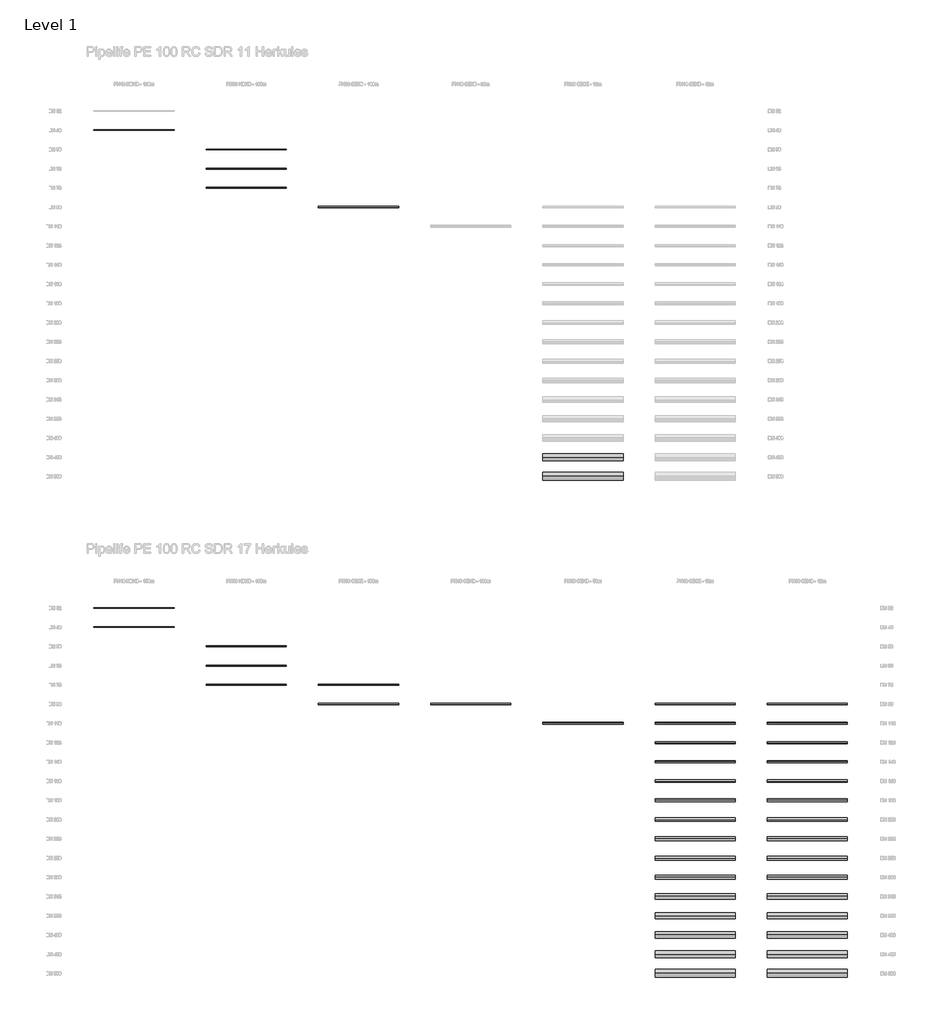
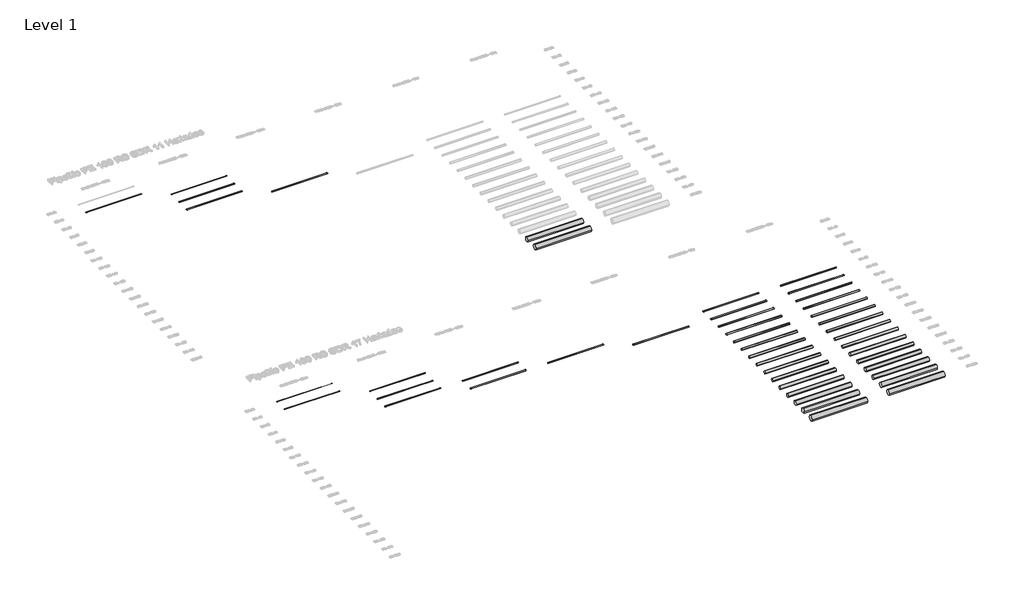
# One storey, part 1 of 17: 46 pipe segments.
"""IFC4 building model written with IfcOpenShell, lengths in millimetres."""

from ifc_helpers import new_model, si_unit, point, frame, frame_2d, origin, place, context, project, spatial, circle_curve, trimmed, segment, composite_curve, outline, extrude, element, save

model = new_model("IFC4")

# Units and contexts
model_context = context("Model", 3, world=origin())
ifc_project = project(units=[si_unit("LENGTHUNIT", "METRE", prefix="MILLI")], contexts=[model_context])

# Site, building, storey
site = spatial("IfcSite", under=ifc_project)
building = spatial("IfcBuilding", under=site)
storey = spatial("IfcBuildingStorey", under=building, Name="Level 1", Elevation=0.0)

# Pipe segments
placement = place(None, origin())
element("IfcPipeSegment", 1, ObjectType="Pipelife HERKULES, SDR 11 niebiesko/niebieska - 150m", at=placement, inside=storey, context=model_context, shape_type="SweptSolid", body=[
    extrude(outline(composite_curve([segment(trimmed(circle_curve(frame_2d((-613.949573, 0.0)), 20.0), [point((-633.949573, 0.0))], [point((-613.949573, 20.0))], False, "CARTESIAN"), True, "CONTINUOUS"), segment(trimmed(circle_curve(frame_2d((-613.949573, 0.0)), 20.0), [point((-613.949573, 20.0))], [point((-593.949573, 0.0))], False, "CARTESIAN"), True, "CONTINUOUS"), segment(trimmed(circle_curve(frame_2d((-613.949573, 0.0)), 20.0), [point((-593.949573, 0.0))], [point((-613.949573, -20.0))], False, "CARTESIAN"), True, "CONTINUOUS"), segment(trimmed(circle_curve(frame_2d((-613.949573, 0.0)), 20.0), [point((-613.949573, -20.0))], [point((-633.949573, 0.0))], False, "CARTESIAN"), True, "CONTINUOUS")], self_intersect=False)), frame((-16532.6671252, 0.0, 0.0), z_axis=(1.0, 0.0, 0.0), x_axis=(0.0, 1.0, 0.0)), (0.0, 0.0, 1.0), 5000.0),
])
element("IfcPipeSegment", 2, ObjectType="Pipelife HERKULES, SDR 11 niebiesko/niebieska - 100m", at=placement, inside=storey, context=model_context, shape_type="SweptSolid", body=[
    extrude(outline(composite_curve([segment(trimmed(circle_curve(frame_2d((-1813.949573, 0.0)), 25.0), [point((-1838.949573, 0.0))], [point((-1813.949573, 25.0))], False, "CARTESIAN"), True, "CONTINUOUS"), segment(trimmed(circle_curve(frame_2d((-1813.949573, 0.0)), 25.0), [point((-1813.949573, 25.0))], [point((-1788.949573, 0.0))], False, "CARTESIAN"), True, "CONTINUOUS"), segment(trimmed(circle_curve(frame_2d((-1813.949573, 0.0)), 25.0), [point((-1788.949573, 0.0))], [point((-1813.949573, -25.0))], False, "CARTESIAN"), True, "CONTINUOUS"), segment(trimmed(circle_curve(frame_2d((-1813.949573, 0.0)), 25.0), [point((-1813.949573, -25.0))], [point((-1838.949573, 0.0))], False, "CARTESIAN"), True, "CONTINUOUS")], self_intersect=False)), frame((-9532.6671252, 0.0, 0.0), z_axis=(1.0, 0.0, 0.0), x_axis=(0.0, 1.0, 0.0)), (0.0, 0.0, 1.0), 5000.0),
])
element("IfcPipeSegment", 3, ObjectType="Pipelife HERKULES, SDR 11 niebiesko/niebieska - 100m", at=placement, inside=storey, context=model_context, shape_type="SweptSolid", body=[
    extrude(outline(composite_curve([segment(trimmed(circle_curve(frame_2d((-3013.949573, 0.0)), 31.5), [point((-3045.449573, 0.0))], [point((-3013.949573, 31.5))], False, "CARTESIAN"), True, "CONTINUOUS"), segment(trimmed(circle_curve(frame_2d((-3013.949573, 0.0)), 31.5), [point((-3013.949573, 31.5))], [point((-2982.449573, 0.0))], False, "CARTESIAN"), True, "CONTINUOUS"), segment(trimmed(circle_curve(frame_2d((-3013.949573, 0.0)), 31.5), [point((-2982.449573, 0.0))], [point((-3013.949573, -31.5))], False, "CARTESIAN"), True, "CONTINUOUS"), segment(trimmed(circle_curve(frame_2d((-3013.949573, 0.0)), 31.5), [point((-3013.949573, -31.5))], [point((-3045.449573, 0.0))], False, "CARTESIAN"), True, "CONTINUOUS")], self_intersect=False)), frame((-9532.6671252, 0.0, 0.0), z_axis=(1.0, 0.0, 0.0), x_axis=(0.0, 1.0, 0.0)), (0.0, 0.0, 1.0), 5000.0),
])
element("IfcPipeSegment", 4, ObjectType="Pipelife HERKULES, SDR 11 niebiesko/niebieska - 100m", at=placement, inside=storey, context=model_context, shape_type="SweptSolid", body=[
    extrude(outline(composite_curve([segment(trimmed(circle_curve(frame_2d((-4213.949573, 0.0)), 37.5), [point((-4251.449573, 0.0))], [point((-4213.949573, 37.5))], False, "CARTESIAN"), True, "CONTINUOUS"), segment(trimmed(circle_curve(frame_2d((-4213.949573, 0.0)), 37.5), [point((-4213.949573, 37.5))], [point((-4176.449573, 0.0))], False, "CARTESIAN"), True, "CONTINUOUS"), segment(trimmed(circle_curve(frame_2d((-4213.949573, 0.0)), 37.5), [point((-4176.449573, 0.0))], [point((-4213.949573, -37.5))], False, "CARTESIAN"), True, "CONTINUOUS"), segment(trimmed(circle_curve(frame_2d((-4213.949573, 0.0)), 37.5), [point((-4213.949573, -37.5))], [point((-4251.449573, 0.0))], False, "CARTESIAN"), True, "CONTINUOUS")], self_intersect=False)), frame((-9532.6671252, 0.0, 0.0), z_axis=(1.0, 0.0, 0.0), x_axis=(0.0, 1.0, 0.0)), (0.0, 0.0, 1.0), 5000.0),
])
element("IfcPipeSegment", 5, ObjectType="Pipelife HERKULES, SDR 11 czarno/czarna - 12m", at=placement, inside=storey, context=model_context, shape_type="SweptSolid", body=[
    extrude(outline(composite_curve([segment(trimmed(circle_curve(frame_2d((-21013.949573, 0.0)), 225.0), [point((-21238.949573, 0.0))], [point((-21013.949573, 225.0))], False, "CARTESIAN"), True, "CONTINUOUS"), segment(trimmed(circle_curve(frame_2d((-21013.949573, 0.0)), 225.0), [point((-21013.949573, 225.0))], [point((-20788.949573, 0.0))], False, "CARTESIAN"), True, "CONTINUOUS"), segment(trimmed(circle_curve(frame_2d((-21013.949573, 0.0)), 225.0), [point((-20788.949573, 0.0))], [point((-21013.949573, -225.0))], False, "CARTESIAN"), True, "CONTINUOUS"), segment(trimmed(circle_curve(frame_2d((-21013.949573, 0.0)), 225.0), [point((-21013.949573, -225.0))], [point((-21238.949573, 0.0))], False, "CARTESIAN"), True, "CONTINUOUS")], self_intersect=False)), frame((11467.3328748, 0.0, 0.0), z_axis=(1.0, 0.0, 0.0), x_axis=(0.0, 1.0, 0.0)), (0.0, 0.0, 1.0), 5000.0),
])
element("IfcPipeSegment", 6, ObjectType="Pipelife HERKULES, SDR 11 czarno/czarna - 12m", at=placement, inside=storey, context=model_context, shape_type="SweptSolid", body=[
    extrude(outline(composite_curve([segment(trimmed(circle_curve(frame_2d((-22213.949573, 0.0)), 250.0), [point((-22463.949573, 0.0))], [point((-22213.949573, 250.0))], False, "CARTESIAN"), True, "CONTINUOUS"), segment(trimmed(circle_curve(frame_2d((-22213.949573, 0.0)), 250.0), [point((-22213.949573, 250.0))], [point((-21963.949573, 0.0))], False, "CARTESIAN"), True, "CONTINUOUS"), segment(trimmed(circle_curve(frame_2d((-22213.949573, 0.0)), 250.0), [point((-21963.949573, 0.0))], [point((-22213.949573, -250.0))], False, "CARTESIAN"), True, "CONTINUOUS"), segment(trimmed(circle_curve(frame_2d((-22213.949573, 0.0)), 250.0), [point((-22213.949573, -250.0))], [point((-22463.949573, 0.0))], False, "CARTESIAN"), True, "CONTINUOUS")], self_intersect=False)), frame((11467.3328748, 0.0, 0.0), z_axis=(1.0, 0.0, 0.0), x_axis=(0.0, 1.0, 0.0)), (0.0, 0.0, 1.0), 5000.0),
])
element("IfcPipeSegment", 7, ObjectType="Pipelife HERKULES, SDR 11 czarno/niebieska - 100m", at=placement, inside=storey, context=model_context, shape_type="SweptSolid", body=[
    extrude(outline(composite_curve([segment(trimmed(circle_curve(frame_2d((-5413.949573, 0.0)), 45.0), [point((-5458.949573, 0.0))], [point((-5413.949573, 45.0))], False, "CARTESIAN"), True, "CONTINUOUS"), segment(trimmed(circle_curve(frame_2d((-5413.949573, 0.0)), 45.0), [point((-5413.949573, 45.0))], [point((-5368.949573, 0.0))], False, "CARTESIAN"), True, "CONTINUOUS"), segment(trimmed(circle_curve(frame_2d((-5413.949573, 0.0)), 45.0), [point((-5368.949573, 0.0))], [point((-5413.949573, -45.0))], False, "CARTESIAN"), True, "CONTINUOUS"), segment(trimmed(circle_curve(frame_2d((-5413.949573, 0.0)), 45.0), [point((-5413.949573, -45.0))], [point((-5458.949573, 0.0))], False, "CARTESIAN"), True, "CONTINUOUS")], self_intersect=False)), frame((-2532.6671252, 0.0, 0.0), z_axis=(1.0, 0.0, 0.0), x_axis=(0.0, 1.0, 0.0)), (0.0, 0.0, 1.0), 5000.0),
])
element("IfcPipeSegment", 8, ObjectType="Pipelife HERKULES, SDR 17 niebiesko/niebieska - 150m", at=placement, inside=storey, context=model_context, shape_type="SweptSolid", body=[
    extrude(outline(composite_curve([segment(trimmed(circle_curve(frame_2d((-30413.949573, 0.0)), 16.0), [point((-30429.949573, 0.0))], [point((-30413.949573, 16.0))], False, "CARTESIAN"), True, "CONTINUOUS"), segment(trimmed(circle_curve(frame_2d((-30413.949573, 0.0)), 16.0), [point((-30413.949573, 16.0))], [point((-30397.949573, 0.0))], False, "CARTESIAN"), True, "CONTINUOUS"), segment(trimmed(circle_curve(frame_2d((-30413.949573, 0.0)), 16.0), [point((-30397.949573, 0.0))], [point((-30413.949573, -16.0))], False, "CARTESIAN"), True, "CONTINUOUS"), segment(trimmed(circle_curve(frame_2d((-30413.949573, 0.0)), 16.0), [point((-30413.949573, -16.0))], [point((-30429.949573, 0.0))], False, "CARTESIAN"), True, "CONTINUOUS")], self_intersect=False)), frame((-16532.6671252, 0.0, 0.0), z_axis=(1.0, 0.0, 0.0), x_axis=(0.0, 1.0, 0.0)), (0.0, 0.0, 1.0), 5000.0),
])
element("IfcPipeSegment", 9, ObjectType="Pipelife HERKULES, SDR 17 niebiesko/niebieska - 150m", at=placement, inside=storey, context=model_context, shape_type="SweptSolid", body=[
    extrude(outline(composite_curve([segment(trimmed(circle_curve(frame_2d((-31613.949573, 0.0)), 20.0), [point((-31633.949573, 0.0))], [point((-31613.949573, 20.0))], False, "CARTESIAN"), True, "CONTINUOUS"), segment(trimmed(circle_curve(frame_2d((-31613.949573, 0.0)), 20.0), [point((-31613.949573, 20.0))], [point((-31593.949573, 0.0))], False, "CARTESIAN"), True, "CONTINUOUS"), segment(trimmed(circle_curve(frame_2d((-31613.949573, 0.0)), 20.0), [point((-31593.949573, 0.0))], [point((-31613.949573, -20.0))], False, "CARTESIAN"), True, "CONTINUOUS"), segment(trimmed(circle_curve(frame_2d((-31613.949573, 0.0)), 20.0), [point((-31613.949573, -20.0))], [point((-31633.949573, 0.0))], False, "CARTESIAN"), True, "CONTINUOUS")], self_intersect=False)), frame((-16532.6671252, 0.0, 0.0), z_axis=(1.0, 0.0, 0.0), x_axis=(0.0, 1.0, 0.0)), (0.0, 0.0, 1.0), 5000.0),
])
element("IfcPipeSegment", 10, ObjectType="Pipelife HERKULES, SDR 17 niebiesko/niebieska - 100m", at=placement, inside=storey, context=model_context, shape_type="SweptSolid", body=[
    extrude(outline(composite_curve([segment(trimmed(circle_curve(frame_2d((-32813.949573, 0.0)), 25.0), [point((-32838.949573, 0.0))], [point((-32813.949573, 25.0))], False, "CARTESIAN"), True, "CONTINUOUS"), segment(trimmed(circle_curve(frame_2d((-32813.949573, 0.0)), 25.0), [point((-32813.949573, 25.0))], [point((-32788.949573, 0.0))], False, "CARTESIAN"), True, "CONTINUOUS"), segment(trimmed(circle_curve(frame_2d((-32813.949573, 0.0)), 25.0), [point((-32788.949573, 0.0))], [point((-32813.949573, -25.0))], False, "CARTESIAN"), True, "CONTINUOUS"), segment(trimmed(circle_curve(frame_2d((-32813.949573, 0.0)), 25.0), [point((-32813.949573, -25.0))], [point((-32838.949573, 0.0))], False, "CARTESIAN"), True, "CONTINUOUS")], self_intersect=False)), frame((-9532.6671252, 0.0, 0.0), z_axis=(1.0, 0.0, 0.0), x_axis=(0.0, 1.0, 0.0)), (0.0, 0.0, 1.0), 5000.0),
])
element("IfcPipeSegment", 11, ObjectType="Pipelife HERKULES, SDR 17 niebiesko/niebieska - 100m", at=placement, inside=storey, context=model_context, shape_type="SweptSolid", body=[
    extrude(outline(composite_curve([segment(trimmed(circle_curve(frame_2d((-34013.949573, 0.0)), 31.5), [point((-34045.449573, 0.0))], [point((-34013.949573, 31.5))], False, "CARTESIAN"), True, "CONTINUOUS"), segment(trimmed(circle_curve(frame_2d((-34013.949573, 0.0)), 31.5), [point((-34013.949573, 31.5))], [point((-33982.449573, 0.0))], False, "CARTESIAN"), True, "CONTINUOUS"), segment(trimmed(circle_curve(frame_2d((-34013.949573, 0.0)), 31.5), [point((-33982.449573, 0.0))], [point((-34013.949573, -31.5))], False, "CARTESIAN"), True, "CONTINUOUS"), segment(trimmed(circle_curve(frame_2d((-34013.949573, 0.0)), 31.5), [point((-34013.949573, -31.5))], [point((-34045.449573, 0.0))], False, "CARTESIAN"), True, "CONTINUOUS")], self_intersect=False)), frame((-9532.6671252, 0.0, 0.0), z_axis=(1.0, 0.0, 0.0), x_axis=(0.0, 1.0, 0.0)), (0.0, 0.0, 1.0), 5000.0),
])
element("IfcPipeSegment", 12, ObjectType="Pipelife HERKULES, SDR 17 niebiesko/niebieska - 100m", at=placement, inside=storey, context=model_context, shape_type="SweptSolid", body=[
    extrude(outline(composite_curve([segment(trimmed(circle_curve(frame_2d((-35213.949573, 0.0)), 37.5), [point((-35251.449573, 0.0))], [point((-35213.949573, 37.5))], False, "CARTESIAN"), True, "CONTINUOUS"), segment(trimmed(circle_curve(frame_2d((-35213.949573, 0.0)), 37.5), [point((-35213.949573, 37.5))], [point((-35176.449573, 0.0))], False, "CARTESIAN"), True, "CONTINUOUS"), segment(trimmed(circle_curve(frame_2d((-35213.949573, 0.0)), 37.5), [point((-35176.449573, 0.0))], [point((-35213.949573, -37.5))], False, "CARTESIAN"), True, "CONTINUOUS"), segment(trimmed(circle_curve(frame_2d((-35213.949573, 0.0)), 37.5), [point((-35213.949573, -37.5))], [point((-35251.449573, 0.0))], False, "CARTESIAN"), True, "CONTINUOUS")], self_intersect=False)), frame((-9532.6671252, 0.0, 0.0), z_axis=(1.0, 0.0, 0.0), x_axis=(0.0, 1.0, 0.0)), (0.0, 0.0, 1.0), 5000.0),
])
element("IfcPipeSegment", 13, ObjectType="Pipelife HERKULES, SDR 17 czarno/czarna - 100m", at=placement, inside=storey, context=model_context, shape_type="SweptSolid", body=[
    extrude(outline(composite_curve([segment(trimmed(circle_curve(frame_2d((-35213.949573, 0.0)), 37.5), [point((-35251.449573, 0.0))], [point((-35213.949573, 37.5))], False, "CARTESIAN"), True, "CONTINUOUS"), segment(trimmed(circle_curve(frame_2d((-35213.949573, 0.0)), 37.5), [point((-35213.949573, 37.5))], [point((-35176.449573, 0.0))], False, "CARTESIAN"), True, "CONTINUOUS"), segment(trimmed(circle_curve(frame_2d((-35213.949573, 0.0)), 37.5), [point((-35176.449573, 0.0))], [point((-35213.949573, -37.5))], False, "CARTESIAN"), True, "CONTINUOUS"), segment(trimmed(circle_curve(frame_2d((-35213.949573, 0.0)), 37.5), [point((-35213.949573, -37.5))], [point((-35251.449573, 0.0))], False, "CARTESIAN"), True, "CONTINUOUS")], self_intersect=False)), frame((-2532.6671252, 0.0, 0.0), z_axis=(1.0, 0.0, 0.0), x_axis=(0.0, 1.0, 0.0)), (0.0, 0.0, 1.0), 5000.0),
])
element("IfcPipeSegment", 14, ObjectType="Pipelife HERKULES, SDR 17 czarno/czarna - 100m", at=placement, inside=storey, context=model_context, shape_type="SweptSolid", body=[
    extrude(outline(composite_curve([segment(trimmed(circle_curve(frame_2d((-36413.949573, 0.0)), 45.0), [point((-36458.949573, 0.0))], [point((-36413.949573, 45.0))], False, "CARTESIAN"), True, "CONTINUOUS"), segment(trimmed(circle_curve(frame_2d((-36413.949573, 0.0)), 45.0), [point((-36413.949573, 45.0))], [point((-36368.949573, 0.0))], False, "CARTESIAN"), True, "CONTINUOUS"), segment(trimmed(circle_curve(frame_2d((-36413.949573, 0.0)), 45.0), [point((-36368.949573, 0.0))], [point((-36413.949573, -45.0))], False, "CARTESIAN"), True, "CONTINUOUS"), segment(trimmed(circle_curve(frame_2d((-36413.949573, 0.0)), 45.0), [point((-36413.949573, -45.0))], [point((-36458.949573, 0.0))], False, "CARTESIAN"), True, "CONTINUOUS")], self_intersect=False)), frame((-2532.6671252, 0.0, 0.0), z_axis=(1.0, 0.0, 0.0), x_axis=(0.0, 1.0, 0.0)), (0.0, 0.0, 1.0), 5000.0),
])
element("IfcPipeSegment", 15, ObjectType="Pipelife HERKULES, SDR 17 czarno/czarna - 12m", at=placement, inside=storey, context=model_context, shape_type="SweptSolid", body=[
    extrude(outline(composite_curve([segment(trimmed(circle_curve(frame_2d((-36413.949573, 0.0)), 45.0), [point((-36458.949573, 0.0))], [point((-36413.949573, 45.0))], False, "CARTESIAN"), True, "CONTINUOUS"), segment(trimmed(circle_curve(frame_2d((-36413.949573, 0.0)), 45.0), [point((-36413.949573, 45.0))], [point((-36368.949573, 0.0))], False, "CARTESIAN"), True, "CONTINUOUS"), segment(trimmed(circle_curve(frame_2d((-36413.949573, 0.0)), 45.0), [point((-36368.949573, 0.0))], [point((-36413.949573, -45.0))], False, "CARTESIAN"), True, "CONTINUOUS"), segment(trimmed(circle_curve(frame_2d((-36413.949573, 0.0)), 45.0), [point((-36413.949573, -45.0))], [point((-36458.949573, 0.0))], False, "CARTESIAN"), True, "CONTINUOUS")], self_intersect=False)), frame((18467.3328748, 0.0, 0.0), z_axis=(1.0, 0.0, 0.0), x_axis=(0.0, 1.0, 0.0)), (0.0, 0.0, 1.0), 5000.0),
])
element("IfcPipeSegment", 16, ObjectType="Pipelife HERKULES, SDR 17 czarno/czarna - 12m", at=placement, inside=storey, context=model_context, shape_type="SweptSolid", body=[
    extrude(outline(composite_curve([segment(trimmed(circle_curve(frame_2d((-37613.949573, 0.0)), 55.0), [point((-37668.949573, 0.0))], [point((-37613.949573, 55.0))], False, "CARTESIAN"), True, "CONTINUOUS"), segment(trimmed(circle_curve(frame_2d((-37613.949573, 0.0)), 55.0), [point((-37613.949573, 55.0))], [point((-37558.949573, 0.0))], False, "CARTESIAN"), True, "CONTINUOUS"), segment(trimmed(circle_curve(frame_2d((-37613.949573, 0.0)), 55.0), [point((-37558.949573, 0.0))], [point((-37613.949573, -55.0))], False, "CARTESIAN"), True, "CONTINUOUS"), segment(trimmed(circle_curve(frame_2d((-37613.949573, 0.0)), 55.0), [point((-37613.949573, -55.0))], [point((-37668.949573, 0.0))], False, "CARTESIAN"), True, "CONTINUOUS")], self_intersect=False)), frame((18467.3328748, 0.0, 0.0), z_axis=(1.0, 0.0, 0.0), x_axis=(0.0, 1.0, 0.0)), (0.0, 0.0, 1.0), 5000.0),
])
element("IfcPipeSegment", 17, ObjectType="Pipelife HERKULES, SDR 17 czarno/czarna - 12m", at=placement, inside=storey, context=model_context, shape_type="SweptSolid", body=[
    extrude(outline(composite_curve([segment(trimmed(circle_curve(frame_2d((-38813.949573, 0.0)), 62.5), [point((-38876.449573, 0.0))], [point((-38813.949573, 62.5))], False, "CARTESIAN"), True, "CONTINUOUS"), segment(trimmed(circle_curve(frame_2d((-38813.949573, 0.0)), 62.5), [point((-38813.949573, 62.5))], [point((-38751.449573, 0.0))], False, "CARTESIAN"), True, "CONTINUOUS"), segment(trimmed(circle_curve(frame_2d((-38813.949573, 0.0)), 62.5), [point((-38751.449573, 0.0))], [point((-38813.949573, -62.5))], False, "CARTESIAN"), True, "CONTINUOUS"), segment(trimmed(circle_curve(frame_2d((-38813.949573, 0.0)), 62.5), [point((-38813.949573, -62.5))], [point((-38876.449573, 0.0))], False, "CARTESIAN"), True, "CONTINUOUS")], self_intersect=False)), frame((18467.3328748, 0.0, 0.0), z_axis=(1.0, 0.0, 0.0), x_axis=(0.0, 1.0, 0.0)), (0.0, 0.0, 1.0), 5000.0),
])
element("IfcPipeSegment", 18, ObjectType="Pipelife HERKULES, SDR 17 czarno/czarna - 12m", at=placement, inside=storey, context=model_context, shape_type="SweptSolid", body=[
    extrude(outline(composite_curve([segment(trimmed(circle_curve(frame_2d((-40013.949573, 0.0)), 70.0), [point((-40083.949573, 0.0))], [point((-40013.949573, 70.0))], False, "CARTESIAN"), True, "CONTINUOUS"), segment(trimmed(circle_curve(frame_2d((-40013.949573, 0.0)), 70.0), [point((-40013.949573, 70.0))], [point((-39943.949573, 0.0))], False, "CARTESIAN"), True, "CONTINUOUS"), segment(trimmed(circle_curve(frame_2d((-40013.949573, 0.0)), 70.0), [point((-39943.949573, 0.0))], [point((-40013.949573, -70.0))], False, "CARTESIAN"), True, "CONTINUOUS"), segment(trimmed(circle_curve(frame_2d((-40013.949573, 0.0)), 70.0), [point((-40013.949573, -70.0))], [point((-40083.949573, 0.0))], False, "CARTESIAN"), True, "CONTINUOUS")], self_intersect=False)), frame((18467.3328748, 0.0, 0.0), z_axis=(1.0, 0.0, 0.0), x_axis=(0.0, 1.0, 0.0)), (0.0, 0.0, 1.0), 5000.0),
])
element("IfcPipeSegment", 19, ObjectType="Pipelife HERKULES, SDR 17 czarno/czarna - 12m", at=placement, inside=storey, context=model_context, shape_type="SweptSolid", body=[
    extrude(outline(composite_curve([segment(trimmed(circle_curve(frame_2d((-41213.949573, 0.0)), 80.0), [point((-41293.949573, 0.0))], [point((-41213.949573, 80.0))], False, "CARTESIAN"), True, "CONTINUOUS"), segment(trimmed(circle_curve(frame_2d((-41213.949573, 0.0)), 80.0), [point((-41213.949573, 80.0))], [point((-41133.949573, 0.0))], False, "CARTESIAN"), True, "CONTINUOUS"), segment(trimmed(circle_curve(frame_2d((-41213.949573, 0.0)), 80.0), [point((-41133.949573, 0.0))], [point((-41213.949573, -80.0))], False, "CARTESIAN"), True, "CONTINUOUS"), segment(trimmed(circle_curve(frame_2d((-41213.949573, 0.0)), 80.0), [point((-41213.949573, -80.0))], [point((-41293.949573, 0.0))], False, "CARTESIAN"), True, "CONTINUOUS")], self_intersect=False)), frame((18467.3328748, 0.0, 0.0), z_axis=(1.0, 0.0, 0.0), x_axis=(0.0, 1.0, 0.0)), (0.0, 0.0, 1.0), 5000.0),
])
element("IfcPipeSegment", 20, ObjectType="Pipelife HERKULES, SDR 17 czarno/czarna - 12m", at=placement, inside=storey, context=model_context, shape_type="SweptSolid", body=[
    extrude(outline(composite_curve([segment(trimmed(circle_curve(frame_2d((-42413.949573, 0.0)), 90.0), [point((-42503.949573, 0.0))], [point((-42413.949573, 90.0))], False, "CARTESIAN"), True, "CONTINUOUS"), segment(trimmed(circle_curve(frame_2d((-42413.949573, 0.0)), 90.0), [point((-42413.949573, 90.0))], [point((-42323.949573, 0.0))], False, "CARTESIAN"), True, "CONTINUOUS"), segment(trimmed(circle_curve(frame_2d((-42413.949573, 0.0)), 90.0), [point((-42323.949573, 0.0))], [point((-42413.949573, -90.0))], False, "CARTESIAN"), True, "CONTINUOUS"), segment(trimmed(circle_curve(frame_2d((-42413.949573, 0.0)), 90.0), [point((-42413.949573, -90.0))], [point((-42503.949573, 0.0))], False, "CARTESIAN"), True, "CONTINUOUS")], self_intersect=False)), frame((18467.3328748, 0.0, 0.0), z_axis=(1.0, 0.0, 0.0), x_axis=(0.0, 1.0, 0.0)), (0.0, 0.0, 1.0), 5000.0),
])
element("IfcPipeSegment", 21, ObjectType="Pipelife HERKULES, SDR 17 czarno/czarna - 12m", at=placement, inside=storey, context=model_context, shape_type="SweptSolid", body=[
    extrude(outline(composite_curve([segment(trimmed(circle_curve(frame_2d((-43613.949573, 0.0)), 100.0), [point((-43713.949573, 0.0))], [point((-43613.949573, 100.0))], False, "CARTESIAN"), True, "CONTINUOUS"), segment(trimmed(circle_curve(frame_2d((-43613.949573, 0.0)), 100.0), [point((-43613.949573, 100.0))], [point((-43513.949573, 0.0))], False, "CARTESIAN"), True, "CONTINUOUS"), segment(trimmed(circle_curve(frame_2d((-43613.949573, 0.0)), 100.0), [point((-43513.949573, 0.0))], [point((-43613.949573, -100.0))], False, "CARTESIAN"), True, "CONTINUOUS"), segment(trimmed(circle_curve(frame_2d((-43613.949573, 0.0)), 100.0), [point((-43613.949573, -100.0))], [point((-43713.949573, 0.0))], False, "CARTESIAN"), True, "CONTINUOUS")], self_intersect=False)), frame((18467.3328748, 0.0, 0.0), z_axis=(1.0, 0.0, 0.0), x_axis=(0.0, 1.0, 0.0)), (0.0, 0.0, 1.0), 5000.0),
])
element("IfcPipeSegment", 22, ObjectType="Pipelife HERKULES, SDR 17 czarno/czarna - 12m", at=placement, inside=storey, context=model_context, shape_type="SweptSolid", body=[
    extrude(outline(composite_curve([segment(trimmed(circle_curve(frame_2d((-44813.949573, 0.0)), 112.5), [point((-44926.449573, 0.0))], [point((-44813.949573, 112.5))], False, "CARTESIAN"), True, "CONTINUOUS"), segment(trimmed(circle_curve(frame_2d((-44813.949573, 0.0)), 112.5), [point((-44813.949573, 112.5))], [point((-44701.449573, 0.0))], False, "CARTESIAN"), True, "CONTINUOUS"), segment(trimmed(circle_curve(frame_2d((-44813.949573, 0.0)), 112.5), [point((-44701.449573, 0.0))], [point((-44813.949573, -112.5))], False, "CARTESIAN"), True, "CONTINUOUS"), segment(trimmed(circle_curve(frame_2d((-44813.949573, 0.0)), 112.5), [point((-44813.949573, -112.5))], [point((-44926.449573, 0.0))], False, "CARTESIAN"), True, "CONTINUOUS")], self_intersect=False)), frame((18467.3328748, 0.0, 0.0), z_axis=(1.0, 0.0, 0.0), x_axis=(0.0, 1.0, 0.0)), (0.0, 0.0, 1.0), 5000.0),
])
element("IfcPipeSegment", 23, ObjectType="Pipelife HERKULES, SDR 17 czarno/czarna - 12m", at=placement, inside=storey, context=model_context, shape_type="SweptSolid", body=[
    extrude(outline(composite_curve([segment(trimmed(circle_curve(frame_2d((-46013.949573, 0.0)), 125.0), [point((-46138.949573, 0.0))], [point((-46013.949573, 125.0))], False, "CARTESIAN"), True, "CONTINUOUS"), segment(trimmed(circle_curve(frame_2d((-46013.949573, 0.0)), 125.0), [point((-46013.949573, 125.0))], [point((-45888.949573, 0.0))], False, "CARTESIAN"), True, "CONTINUOUS"), segment(trimmed(circle_curve(frame_2d((-46013.949573, 0.0)), 125.0), [point((-45888.949573, 0.0))], [point((-46013.949573, -125.0))], False, "CARTESIAN"), True, "CONTINUOUS"), segment(trimmed(circle_curve(frame_2d((-46013.949573, 0.0)), 125.0), [point((-46013.949573, -125.0))], [point((-46138.949573, 0.0))], False, "CARTESIAN"), True, "CONTINUOUS")], self_intersect=False)), frame((18467.3328748, 0.0, 0.0), z_axis=(1.0, 0.0, 0.0), x_axis=(0.0, 1.0, 0.0)), (0.0, 0.0, 1.0), 5000.0),
])
element("IfcPipeSegment", 24, ObjectType="Pipelife HERKULES, SDR 17 czarno/czarna - 12m", at=placement, inside=storey, context=model_context, shape_type="SweptSolid", body=[
    extrude(outline(composite_curve([segment(trimmed(circle_curve(frame_2d((-47213.949573, 0.0)), 140.0), [point((-47353.949573, 0.0))], [point((-47213.949573, 140.0))], False, "CARTESIAN"), True, "CONTINUOUS"), segment(trimmed(circle_curve(frame_2d((-47213.949573, 0.0)), 140.0), [point((-47213.949573, 140.0))], [point((-47073.949573, 0.0))], False, "CARTESIAN"), True, "CONTINUOUS"), segment(trimmed(circle_curve(frame_2d((-47213.949573, 0.0)), 140.0), [point((-47073.949573, 0.0))], [point((-47213.949573, -140.0))], False, "CARTESIAN"), True, "CONTINUOUS"), segment(trimmed(circle_curve(frame_2d((-47213.949573, 0.0)), 140.0), [point((-47213.949573, -140.0))], [point((-47353.949573, 0.0))], False, "CARTESIAN"), True, "CONTINUOUS")], self_intersect=False)), frame((18467.3328748, 0.0, 0.0), z_axis=(1.0, 0.0, 0.0), x_axis=(0.0, 1.0, 0.0)), (0.0, 0.0, 1.0), 5000.0),
])
element("IfcPipeSegment", 25, ObjectType="Pipelife HERKULES, SDR 17 czarno/czarna - 12m", at=placement, inside=storey, context=model_context, shape_type="SweptSolid", body=[
    extrude(outline(composite_curve([segment(trimmed(circle_curve(frame_2d((-48413.949573, 0.0)), 157.5), [point((-48571.449573, 0.0))], [point((-48413.949573, 157.5))], False, "CARTESIAN"), True, "CONTINUOUS"), segment(trimmed(circle_curve(frame_2d((-48413.949573, 0.0)), 157.5), [point((-48413.949573, 157.5))], [point((-48256.449573, 0.0))], False, "CARTESIAN"), True, "CONTINUOUS"), segment(trimmed(circle_curve(frame_2d((-48413.949573, 0.0)), 157.5), [point((-48256.449573, 0.0))], [point((-48413.949573, -157.5))], False, "CARTESIAN"), True, "CONTINUOUS"), segment(trimmed(circle_curve(frame_2d((-48413.949573, 0.0)), 157.5), [point((-48413.949573, -157.5))], [point((-48571.449573, 0.0))], False, "CARTESIAN"), True, "CONTINUOUS")], self_intersect=False)), frame((18467.3328748, 0.0, 0.0), z_axis=(1.0, 0.0, 0.0), x_axis=(0.0, 1.0, 0.0)), (0.0, 0.0, 1.0), 5000.0),
])
element("IfcPipeSegment", 26, ObjectType="Pipelife HERKULES, SDR 17 czarno/czarna - 12m", at=placement, inside=storey, context=model_context, shape_type="SweptSolid", body=[
    extrude(outline(composite_curve([segment(trimmed(circle_curve(frame_2d((-49613.949573, 0.0)), 177.5), [point((-49791.449573, 0.0))], [point((-49613.949573, 177.5))], False, "CARTESIAN"), True, "CONTINUOUS"), segment(trimmed(circle_curve(frame_2d((-49613.949573, 0.0)), 177.5), [point((-49613.949573, 177.5))], [point((-49436.449573, 0.0))], False, "CARTESIAN"), True, "CONTINUOUS"), segment(trimmed(circle_curve(frame_2d((-49613.949573, 0.0)), 177.5), [point((-49436.449573, 0.0))], [point((-49613.949573, -177.5))], False, "CARTESIAN"), True, "CONTINUOUS"), segment(trimmed(circle_curve(frame_2d((-49613.949573, 0.0)), 177.5), [point((-49613.949573, -177.5))], [point((-49791.449573, 0.0))], False, "CARTESIAN"), True, "CONTINUOUS")], self_intersect=False)), frame((18467.3328748, 0.0, 0.0), z_axis=(1.0, 0.0, 0.0), x_axis=(0.0, 1.0, 0.0)), (0.0, 0.0, 1.0), 5000.0),
])
element("IfcPipeSegment", 27, ObjectType="Pipelife HERKULES, SDR 17 czarno/czarna - 12m", at=placement, inside=storey, context=model_context, shape_type="SweptSolid", body=[
    extrude(outline(composite_curve([segment(trimmed(circle_curve(frame_2d((-50813.949573, 0.0)), 200.0), [point((-51013.949573, 0.0))], [point((-50813.949573, 200.0))], False, "CARTESIAN"), True, "CONTINUOUS"), segment(trimmed(circle_curve(frame_2d((-50813.949573, 0.0)), 200.0), [point((-50813.949573, 200.0))], [point((-50613.949573, 0.0))], False, "CARTESIAN"), True, "CONTINUOUS"), segment(trimmed(circle_curve(frame_2d((-50813.949573, 0.0)), 200.0), [point((-50613.949573, 0.0))], [point((-50813.949573, -200.0))], False, "CARTESIAN"), True, "CONTINUOUS"), segment(trimmed(circle_curve(frame_2d((-50813.949573, 0.0)), 200.0), [point((-50813.949573, -200.0))], [point((-51013.949573, 0.0))], False, "CARTESIAN"), True, "CONTINUOUS")], self_intersect=False)), frame((18467.3328748, 0.0, 0.0), z_axis=(1.0, 0.0, 0.0), x_axis=(0.0, 1.0, 0.0)), (0.0, 0.0, 1.0), 5000.0),
])
element("IfcPipeSegment", 28, ObjectType="Pipelife HERKULES, SDR 17 czarno/czarna - 12m", at=placement, inside=storey, context=model_context, shape_type="SweptSolid", body=[
    extrude(outline(composite_curve([segment(trimmed(circle_curve(frame_2d((-52013.949573, 0.0)), 225.0), [point((-52238.949573, 0.0))], [point((-52013.949573, 225.0))], False, "CARTESIAN"), True, "CONTINUOUS"), segment(trimmed(circle_curve(frame_2d((-52013.949573, 0.0)), 225.0), [point((-52013.949573, 225.0))], [point((-51788.949573, 0.0))], False, "CARTESIAN"), True, "CONTINUOUS"), segment(trimmed(circle_curve(frame_2d((-52013.949573, 0.0)), 225.0), [point((-51788.949573, 0.0))], [point((-52013.949573, -225.0))], False, "CARTESIAN"), True, "CONTINUOUS"), segment(trimmed(circle_curve(frame_2d((-52013.949573, 0.0)), 225.0), [point((-52013.949573, -225.0))], [point((-52238.949573, 0.0))], False, "CARTESIAN"), True, "CONTINUOUS")], self_intersect=False)), frame((18467.3328748, 0.0, 0.0), z_axis=(1.0, 0.0, 0.0), x_axis=(0.0, 1.0, 0.0)), (0.0, 0.0, 1.0), 5000.0),
])
element("IfcPipeSegment", 29, ObjectType="Pipelife HERKULES, SDR 17 czarno/czarna - 12m", at=placement, inside=storey, context=model_context, shape_type="SweptSolid", body=[
    extrude(outline(composite_curve([segment(trimmed(circle_curve(frame_2d((-53213.949573, 0.0)), 250.0), [point((-53463.949573, 0.0))], [point((-53213.949573, 250.0))], False, "CARTESIAN"), True, "CONTINUOUS"), segment(trimmed(circle_curve(frame_2d((-53213.949573, 0.0)), 250.0), [point((-53213.949573, 250.0))], [point((-52963.949573, 0.0))], False, "CARTESIAN"), True, "CONTINUOUS"), segment(trimmed(circle_curve(frame_2d((-53213.949573, 0.0)), 250.0), [point((-52963.949573, 0.0))], [point((-53213.949573, -250.0))], False, "CARTESIAN"), True, "CONTINUOUS"), segment(trimmed(circle_curve(frame_2d((-53213.949573, 0.0)), 250.0), [point((-53213.949573, -250.0))], [point((-53463.949573, 0.0))], False, "CARTESIAN"), True, "CONTINUOUS")], self_intersect=False)), frame((18467.3328748, 0.0, 0.0), z_axis=(1.0, 0.0, 0.0), x_axis=(0.0, 1.0, 0.0)), (0.0, 0.0, 1.0), 5000.0),
])
element("IfcPipeSegment", 30, ObjectType="Pipelife HERKULES, SDR 17 czarno/niebieska - 100m", at=placement, inside=storey, context=model_context, shape_type="SweptSolid", body=[
    extrude(outline(composite_curve([segment(trimmed(circle_curve(frame_2d((-36413.949573, 0.0)), 45.0), [point((-36458.949573, 0.0))], [point((-36413.949573, 45.0))], False, "CARTESIAN"), True, "CONTINUOUS"), segment(trimmed(circle_curve(frame_2d((-36413.949573, 0.0)), 45.0), [point((-36413.949573, 45.0))], [point((-36368.949573, 0.0))], False, "CARTESIAN"), True, "CONTINUOUS"), segment(trimmed(circle_curve(frame_2d((-36413.949573, 0.0)), 45.0), [point((-36368.949573, 0.0))], [point((-36413.949573, -45.0))], False, "CARTESIAN"), True, "CONTINUOUS"), segment(trimmed(circle_curve(frame_2d((-36413.949573, 0.0)), 45.0), [point((-36413.949573, -45.0))], [point((-36458.949573, 0.0))], False, "CARTESIAN"), True, "CONTINUOUS")], self_intersect=False)), frame((4467.3328748, 0.0, 0.0), z_axis=(1.0, 0.0, 0.0), x_axis=(0.0, 1.0, 0.0)), (0.0, 0.0, 1.0), 5000.0),
])
element("IfcPipeSegment", 31, ObjectType="Pipelife HERKULES, SDR 17 czarno/niebieska - 50m", at=placement, inside=storey, context=model_context, shape_type="SweptSolid", body=[
    extrude(outline(composite_curve([segment(trimmed(circle_curve(frame_2d((-37613.949573, 0.0)), 55.0), [point((-37668.949573, 0.0))], [point((-37613.949573, 55.0))], False, "CARTESIAN"), True, "CONTINUOUS"), segment(trimmed(circle_curve(frame_2d((-37613.949573, 0.0)), 55.0), [point((-37613.949573, 55.0))], [point((-37558.949573, 0.0))], False, "CARTESIAN"), True, "CONTINUOUS"), segment(trimmed(circle_curve(frame_2d((-37613.949573, 0.0)), 55.0), [point((-37558.949573, 0.0))], [point((-37613.949573, -55.0))], False, "CARTESIAN"), True, "CONTINUOUS"), segment(trimmed(circle_curve(frame_2d((-37613.949573, 0.0)), 55.0), [point((-37613.949573, -55.0))], [point((-37668.949573, 0.0))], False, "CARTESIAN"), True, "CONTINUOUS")], self_intersect=False)), frame((11467.3328748, 0.0, 0.0), z_axis=(1.0, 0.0, 0.0), x_axis=(0.0, 1.0, 0.0)), (0.0, 0.0, 1.0), 5000.0),
])
element("IfcPipeSegment", 32, ObjectType="Pipelife HERKULES, SDR 17 czarno/niebieska - 12m", at=placement, inside=storey, context=model_context, shape_type="SweptSolid", body=[
    extrude(outline(composite_curve([segment(trimmed(circle_curve(frame_2d((-37613.949573, 0.0)), 55.0), [point((-37668.949573, 0.0))], [point((-37613.949573, 55.0))], False, "CARTESIAN"), True, "CONTINUOUS"), segment(trimmed(circle_curve(frame_2d((-37613.949573, 0.0)), 55.0), [point((-37613.949573, 55.0))], [point((-37558.949573, 0.0))], False, "CARTESIAN"), True, "CONTINUOUS"), segment(trimmed(circle_curve(frame_2d((-37613.949573, 0.0)), 55.0), [point((-37558.949573, 0.0))], [point((-37613.949573, -55.0))], False, "CARTESIAN"), True, "CONTINUOUS"), segment(trimmed(circle_curve(frame_2d((-37613.949573, 0.0)), 55.0), [point((-37613.949573, -55.0))], [point((-37668.949573, 0.0))], False, "CARTESIAN"), True, "CONTINUOUS")], self_intersect=False)), frame((25467.3328748, 0.0, 0.0), z_axis=(1.0, 0.0, 0.0), x_axis=(0.0, 1.0, 0.0)), (0.0, 0.0, 1.0), 5000.0),
])
element("IfcPipeSegment", 33, ObjectType="Pipelife HERKULES, SDR 17 czarno/niebieska - 12m", at=placement, inside=storey, context=model_context, shape_type="SweptSolid", body=[
    extrude(outline(composite_curve([segment(trimmed(circle_curve(frame_2d((-36413.949573, 0.0)), 45.0), [point((-36458.949573, 0.0))], [point((-36413.949573, 45.0))], False, "CARTESIAN"), True, "CONTINUOUS"), segment(trimmed(circle_curve(frame_2d((-36413.949573, 0.0)), 45.0), [point((-36413.949573, 45.0))], [point((-36368.949573, 0.0))], False, "CARTESIAN"), True, "CONTINUOUS"), segment(trimmed(circle_curve(frame_2d((-36413.949573, 0.0)), 45.0), [point((-36368.949573, 0.0))], [point((-36413.949573, -45.0))], False, "CARTESIAN"), True, "CONTINUOUS"), segment(trimmed(circle_curve(frame_2d((-36413.949573, 0.0)), 45.0), [point((-36413.949573, -45.0))], [point((-36458.949573, 0.0))], False, "CARTESIAN"), True, "CONTINUOUS")], self_intersect=False)), frame((25467.3328748, 0.0, 0.0), z_axis=(1.0, 0.0, 0.0), x_axis=(0.0, 1.0, 0.0)), (0.0, 0.0, 1.0), 5000.0),
])
element("IfcPipeSegment", 34, ObjectType="Pipelife HERKULES, SDR 17 czarno/niebieska - 12m", at=placement, inside=storey, context=model_context, shape_type="SweptSolid", body=[
    extrude(outline(composite_curve([segment(trimmed(circle_curve(frame_2d((-38813.949573, 0.0)), 62.5), [point((-38876.449573, 0.0))], [point((-38813.949573, 62.5))], False, "CARTESIAN"), True, "CONTINUOUS"), segment(trimmed(circle_curve(frame_2d((-38813.949573, 0.0)), 62.5), [point((-38813.949573, 62.5))], [point((-38751.449573, 0.0))], False, "CARTESIAN"), True, "CONTINUOUS"), segment(trimmed(circle_curve(frame_2d((-38813.949573, 0.0)), 62.5), [point((-38751.449573, 0.0))], [point((-38813.949573, -62.5))], False, "CARTESIAN"), True, "CONTINUOUS"), segment(trimmed(circle_curve(frame_2d((-38813.949573, 0.0)), 62.5), [point((-38813.949573, -62.5))], [point((-38876.449573, 0.0))], False, "CARTESIAN"), True, "CONTINUOUS")], self_intersect=False)), frame((25467.3328748, 0.0, 0.0), z_axis=(1.0, 0.0, 0.0), x_axis=(0.0, 1.0, 0.0)), (0.0, 0.0, 1.0), 5000.0),
])
element("IfcPipeSegment", 35, ObjectType="Pipelife HERKULES, SDR 17 czarno/niebieska - 12m", at=placement, inside=storey, context=model_context, shape_type="SweptSolid", body=[
    extrude(outline(composite_curve([segment(trimmed(circle_curve(frame_2d((-40013.949573, 0.0)), 70.0), [point((-40083.949573, 0.0))], [point((-40013.949573, 70.0))], False, "CARTESIAN"), True, "CONTINUOUS"), segment(trimmed(circle_curve(frame_2d((-40013.949573, 0.0)), 70.0), [point((-40013.949573, 70.0))], [point((-39943.949573, 0.0))], False, "CARTESIAN"), True, "CONTINUOUS"), segment(trimmed(circle_curve(frame_2d((-40013.949573, 0.0)), 70.0), [point((-39943.949573, 0.0))], [point((-40013.949573, -70.0))], False, "CARTESIAN"), True, "CONTINUOUS"), segment(trimmed(circle_curve(frame_2d((-40013.949573, 0.0)), 70.0), [point((-40013.949573, -70.0))], [point((-40083.949573, 0.0))], False, "CARTESIAN"), True, "CONTINUOUS")], self_intersect=False)), frame((25467.3328748, 0.0, 0.0), z_axis=(1.0, 0.0, 0.0), x_axis=(0.0, 1.0, 0.0)), (0.0, 0.0, 1.0), 5000.0),
])
element("IfcPipeSegment", 36, ObjectType="Pipelife HERKULES, SDR 17 czarno/niebieska - 12m", at=placement, inside=storey, context=model_context, shape_type="SweptSolid", body=[
    extrude(outline(composite_curve([segment(trimmed(circle_curve(frame_2d((-41213.949573, 0.0)), 80.0), [point((-41293.949573, 0.0))], [point((-41213.949573, 80.0))], False, "CARTESIAN"), True, "CONTINUOUS"), segment(trimmed(circle_curve(frame_2d((-41213.949573, 0.0)), 80.0), [point((-41213.949573, 80.0))], [point((-41133.949573, 0.0))], False, "CARTESIAN"), True, "CONTINUOUS"), segment(trimmed(circle_curve(frame_2d((-41213.949573, 0.0)), 80.0), [point((-41133.949573, 0.0))], [point((-41213.949573, -80.0))], False, "CARTESIAN"), True, "CONTINUOUS"), segment(trimmed(circle_curve(frame_2d((-41213.949573, 0.0)), 80.0), [point((-41213.949573, -80.0))], [point((-41293.949573, 0.0))], False, "CARTESIAN"), True, "CONTINUOUS")], self_intersect=False)), frame((25467.3328748, 0.0, 0.0), z_axis=(1.0, 0.0, 0.0), x_axis=(0.0, 1.0, 0.0)), (0.0, 0.0, 1.0), 5000.0),
])
element("IfcPipeSegment", 37, ObjectType="Pipelife HERKULES, SDR 17 czarno/niebieska - 12m", at=placement, inside=storey, context=model_context, shape_type="SweptSolid", body=[
    extrude(outline(composite_curve([segment(trimmed(circle_curve(frame_2d((-42413.949573, 0.0)), 90.0), [point((-42503.949573, 0.0))], [point((-42413.949573, 90.0))], False, "CARTESIAN"), True, "CONTINUOUS"), segment(trimmed(circle_curve(frame_2d((-42413.949573, 0.0)), 90.0), [point((-42413.949573, 90.0))], [point((-42323.949573, 0.0))], False, "CARTESIAN"), True, "CONTINUOUS"), segment(trimmed(circle_curve(frame_2d((-42413.949573, 0.0)), 90.0), [point((-42323.949573, 0.0))], [point((-42413.949573, -90.0))], False, "CARTESIAN"), True, "CONTINUOUS"), segment(trimmed(circle_curve(frame_2d((-42413.949573, 0.0)), 90.0), [point((-42413.949573, -90.0))], [point((-42503.949573, 0.0))], False, "CARTESIAN"), True, "CONTINUOUS")], self_intersect=False)), frame((25467.3328748, 0.0, 0.0), z_axis=(1.0, 0.0, 0.0), x_axis=(0.0, 1.0, 0.0)), (0.0, 0.0, 1.0), 5000.0),
])
element("IfcPipeSegment", 38, ObjectType="Pipelife HERKULES, SDR 17 czarno/niebieska - 12m", at=placement, inside=storey, context=model_context, shape_type="SweptSolid", body=[
    extrude(outline(composite_curve([segment(trimmed(circle_curve(frame_2d((-43613.949573, 0.0)), 100.0), [point((-43713.949573, 0.0))], [point((-43613.949573, 100.0))], False, "CARTESIAN"), True, "CONTINUOUS"), segment(trimmed(circle_curve(frame_2d((-43613.949573, 0.0)), 100.0), [point((-43613.949573, 100.0))], [point((-43513.949573, 0.0))], False, "CARTESIAN"), True, "CONTINUOUS"), segment(trimmed(circle_curve(frame_2d((-43613.949573, 0.0)), 100.0), [point((-43513.949573, 0.0))], [point((-43613.949573, -100.0))], False, "CARTESIAN"), True, "CONTINUOUS"), segment(trimmed(circle_curve(frame_2d((-43613.949573, 0.0)), 100.0), [point((-43613.949573, -100.0))], [point((-43713.949573, 0.0))], False, "CARTESIAN"), True, "CONTINUOUS")], self_intersect=False)), frame((25467.3328748, 0.0, 0.0), z_axis=(1.0, 0.0, 0.0), x_axis=(0.0, 1.0, 0.0)), (0.0, 0.0, 1.0), 5000.0),
])
element("IfcPipeSegment", 39, ObjectType="Pipelife HERKULES, SDR 17 czarno/niebieska - 12m", at=placement, inside=storey, context=model_context, shape_type="SweptSolid", body=[
    extrude(outline(composite_curve([segment(trimmed(circle_curve(frame_2d((-44813.949573, 0.0)), 112.5), [point((-44926.449573, 0.0))], [point((-44813.949573, 112.5))], False, "CARTESIAN"), True, "CONTINUOUS"), segment(trimmed(circle_curve(frame_2d((-44813.949573, 0.0)), 112.5), [point((-44813.949573, 112.5))], [point((-44701.449573, 0.0))], False, "CARTESIAN"), True, "CONTINUOUS"), segment(trimmed(circle_curve(frame_2d((-44813.949573, 0.0)), 112.5), [point((-44701.449573, 0.0))], [point((-44813.949573, -112.5))], False, "CARTESIAN"), True, "CONTINUOUS"), segment(trimmed(circle_curve(frame_2d((-44813.949573, 0.0)), 112.5), [point((-44813.949573, -112.5))], [point((-44926.449573, 0.0))], False, "CARTESIAN"), True, "CONTINUOUS")], self_intersect=False)), frame((25467.3328748, 0.0, 0.0), z_axis=(1.0, 0.0, 0.0), x_axis=(0.0, 1.0, 0.0)), (0.0, 0.0, 1.0), 5000.0),
])
element("IfcPipeSegment", 40, ObjectType="Pipelife HERKULES, SDR 17 czarno/niebieska - 12m", at=placement, inside=storey, context=model_context, shape_type="SweptSolid", body=[
    extrude(outline(composite_curve([segment(trimmed(circle_curve(frame_2d((-46013.949573, 0.0)), 125.0), [point((-46138.949573, 0.0))], [point((-46013.949573, 125.0))], False, "CARTESIAN"), True, "CONTINUOUS"), segment(trimmed(circle_curve(frame_2d((-46013.949573, 0.0)), 125.0), [point((-46013.949573, 125.0))], [point((-45888.949573, 0.0))], False, "CARTESIAN"), True, "CONTINUOUS"), segment(trimmed(circle_curve(frame_2d((-46013.949573, 0.0)), 125.0), [point((-45888.949573, 0.0))], [point((-46013.949573, -125.0))], False, "CARTESIAN"), True, "CONTINUOUS"), segment(trimmed(circle_curve(frame_2d((-46013.949573, 0.0)), 125.0), [point((-46013.949573, -125.0))], [point((-46138.949573, 0.0))], False, "CARTESIAN"), True, "CONTINUOUS")], self_intersect=False)), frame((25467.3328748, 0.0, 0.0), z_axis=(1.0, 0.0, 0.0), x_axis=(0.0, 1.0, 0.0)), (0.0, 0.0, 1.0), 5000.0),
])
element("IfcPipeSegment", 41, ObjectType="Pipelife HERKULES, SDR 17 czarno/niebieska - 12m", at=placement, inside=storey, context=model_context, shape_type="SweptSolid", body=[
    extrude(outline(composite_curve([segment(trimmed(circle_curve(frame_2d((-47213.949573, 0.0)), 140.0), [point((-47353.949573, 0.0))], [point((-47213.949573, 140.0))], False, "CARTESIAN"), True, "CONTINUOUS"), segment(trimmed(circle_curve(frame_2d((-47213.949573, 0.0)), 140.0), [point((-47213.949573, 140.0))], [point((-47073.949573, 0.0))], False, "CARTESIAN"), True, "CONTINUOUS"), segment(trimmed(circle_curve(frame_2d((-47213.949573, 0.0)), 140.0), [point((-47073.949573, 0.0))], [point((-47213.949573, -140.0))], False, "CARTESIAN"), True, "CONTINUOUS"), segment(trimmed(circle_curve(frame_2d((-47213.949573, 0.0)), 140.0), [point((-47213.949573, -140.0))], [point((-47353.949573, 0.0))], False, "CARTESIAN"), True, "CONTINUOUS")], self_intersect=False)), frame((25467.3328748, 0.0, 0.0), z_axis=(1.0, 0.0, 0.0), x_axis=(0.0, 1.0, 0.0)), (0.0, 0.0, 1.0), 5000.0),
])
element("IfcPipeSegment", 42, ObjectType="Pipelife HERKULES, SDR 17 czarno/niebieska - 12m", at=placement, inside=storey, context=model_context, shape_type="SweptSolid", body=[
    extrude(outline(composite_curve([segment(trimmed(circle_curve(frame_2d((-48413.949573, 0.0)), 157.5), [point((-48571.449573, 0.0))], [point((-48413.949573, 157.5))], False, "CARTESIAN"), True, "CONTINUOUS"), segment(trimmed(circle_curve(frame_2d((-48413.949573, 0.0)), 157.5), [point((-48413.949573, 157.5))], [point((-48256.449573, 0.0))], False, "CARTESIAN"), True, "CONTINUOUS"), segment(trimmed(circle_curve(frame_2d((-48413.949573, 0.0)), 157.5), [point((-48256.449573, 0.0))], [point((-48413.949573, -157.5))], False, "CARTESIAN"), True, "CONTINUOUS"), segment(trimmed(circle_curve(frame_2d((-48413.949573, 0.0)), 157.5), [point((-48413.949573, -157.5))], [point((-48571.449573, 0.0))], False, "CARTESIAN"), True, "CONTINUOUS")], self_intersect=False)), frame((25467.3328748, 0.0, 0.0), z_axis=(1.0, 0.0, 0.0), x_axis=(0.0, 1.0, 0.0)), (0.0, 0.0, 1.0), 5000.0),
])
element("IfcPipeSegment", 43, ObjectType="Pipelife HERKULES, SDR 17 czarno/niebieska - 12m", at=placement, inside=storey, context=model_context, shape_type="SweptSolid", body=[
    extrude(outline(composite_curve([segment(trimmed(circle_curve(frame_2d((-49613.949573, 0.0)), 177.5), [point((-49791.449573, 0.0))], [point((-49613.949573, 177.5))], False, "CARTESIAN"), True, "CONTINUOUS"), segment(trimmed(circle_curve(frame_2d((-49613.949573, 0.0)), 177.5), [point((-49613.949573, 177.5))], [point((-49436.449573, 0.0))], False, "CARTESIAN"), True, "CONTINUOUS"), segment(trimmed(circle_curve(frame_2d((-49613.949573, 0.0)), 177.5), [point((-49436.449573, 0.0))], [point((-49613.949573, -177.5))], False, "CARTESIAN"), True, "CONTINUOUS"), segment(trimmed(circle_curve(frame_2d((-49613.949573, 0.0)), 177.5), [point((-49613.949573, -177.5))], [point((-49791.449573, 0.0))], False, "CARTESIAN"), True, "CONTINUOUS")], self_intersect=False)), frame((25467.3328748, 0.0, 0.0), z_axis=(1.0, 0.0, 0.0), x_axis=(0.0, 1.0, 0.0)), (0.0, 0.0, 1.0), 5000.0),
])
element("IfcPipeSegment", 44, ObjectType="Pipelife HERKULES, SDR 17 czarno/niebieska - 12m", at=placement, inside=storey, context=model_context, shape_type="SweptSolid", body=[
    extrude(outline(composite_curve([segment(trimmed(circle_curve(frame_2d((-50813.949573, 0.0)), 200.0), [point((-51013.949573, 0.0))], [point((-50813.949573, 200.0))], False, "CARTESIAN"), True, "CONTINUOUS"), segment(trimmed(circle_curve(frame_2d((-50813.949573, 0.0)), 200.0), [point((-50813.949573, 200.0))], [point((-50613.949573, 0.0))], False, "CARTESIAN"), True, "CONTINUOUS"), segment(trimmed(circle_curve(frame_2d((-50813.949573, 0.0)), 200.0), [point((-50613.949573, 0.0))], [point((-50813.949573, -200.0))], False, "CARTESIAN"), True, "CONTINUOUS"), segment(trimmed(circle_curve(frame_2d((-50813.949573, 0.0)), 200.0), [point((-50813.949573, -200.0))], [point((-51013.949573, 0.0))], False, "CARTESIAN"), True, "CONTINUOUS")], self_intersect=False)), frame((25467.3328748, 0.0, 0.0), z_axis=(1.0, 0.0, 0.0), x_axis=(0.0, 1.0, 0.0)), (0.0, 0.0, 1.0), 5000.0),
])
element("IfcPipeSegment", 45, ObjectType="Pipelife HERKULES, SDR 17 czarno/niebieska - 12m", at=placement, inside=storey, context=model_context, shape_type="SweptSolid", body=[
    extrude(outline(composite_curve([segment(trimmed(circle_curve(frame_2d((-52013.949573, 0.0)), 225.0), [point((-52238.949573, 0.0))], [point((-52013.949573, 225.0))], False, "CARTESIAN"), True, "CONTINUOUS"), segment(trimmed(circle_curve(frame_2d((-52013.949573, 0.0)), 225.0), [point((-52013.949573, 225.0))], [point((-51788.949573, 0.0))], False, "CARTESIAN"), True, "CONTINUOUS"), segment(trimmed(circle_curve(frame_2d((-52013.949573, 0.0)), 225.0), [point((-51788.949573, 0.0))], [point((-52013.949573, -225.0))], False, "CARTESIAN"), True, "CONTINUOUS"), segment(trimmed(circle_curve(frame_2d((-52013.949573, 0.0)), 225.0), [point((-52013.949573, -225.0))], [point((-52238.949573, 0.0))], False, "CARTESIAN"), True, "CONTINUOUS")], self_intersect=False)), frame((25467.3328748, 0.0, 0.0), z_axis=(1.0, 0.0, 0.0), x_axis=(0.0, 1.0, 0.0)), (0.0, 0.0, 1.0), 5000.0),
])
element("IfcPipeSegment", 46, ObjectType="Pipelife HERKULES, SDR 17 czarno/niebieska - 12m", at=placement, inside=storey, context=model_context, shape_type="SweptSolid", body=[
    extrude(outline(composite_curve([segment(trimmed(circle_curve(frame_2d((-53213.949573, 0.0)), 250.0), [point((-53463.949573, 0.0))], [point((-53213.949573, 250.0))], False, "CARTESIAN"), True, "CONTINUOUS"), segment(trimmed(circle_curve(frame_2d((-53213.949573, 0.0)), 250.0), [point((-53213.949573, 250.0))], [point((-52963.949573, 0.0))], False, "CARTESIAN"), True, "CONTINUOUS"), segment(trimmed(circle_curve(frame_2d((-53213.949573, 0.0)), 250.0), [point((-52963.949573, 0.0))], [point((-53213.949573, -250.0))], False, "CARTESIAN"), True, "CONTINUOUS"), segment(trimmed(circle_curve(frame_2d((-53213.949573, 0.0)), 250.0), [point((-53213.949573, -250.0))], [point((-53463.949573, 0.0))], False, "CARTESIAN"), True, "CONTINUOUS")], self_intersect=False)), frame((25467.3328748, 0.0, 0.0), z_axis=(1.0, 0.0, 0.0), x_axis=(0.0, 1.0, 0.0)), (0.0, 0.0, 1.0), 5000.0),
])

save(model, "model.ifc")
